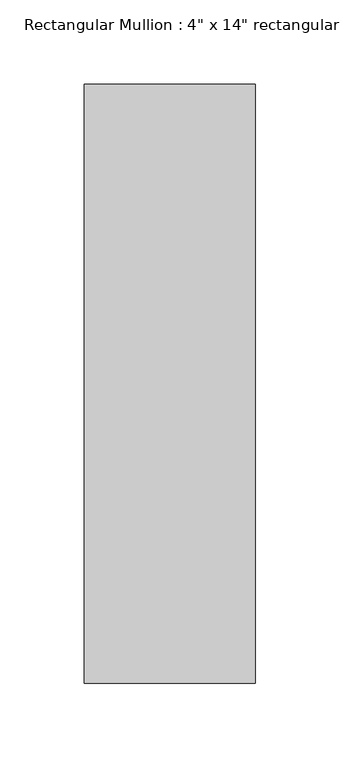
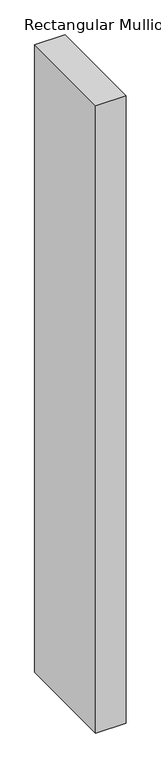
"""IFC4 building model written with IfcOpenShell, lengths in millimetres: member geometry."""

from ifc_helpers import new_model, si_unit, frame, origin, place, context, project, spatial, polyline, outline, extrude, source, transform, mapped, element, save


def member_c889531d(model_context):
    return source(origin(), model_context, "Body", "SweptSolid", [
        extrude(outline(polyline([(50.8, 292.1), (50.8, -63.5), (-50.8, -63.5), (-50.8, 292.1), (50.8, 292.1)])), frame((0.0, 0.0, -2229.8082348), z_axis=(0.0, 0.0, 1.0), x_axis=(1.0, 0.0, 0.0)), (0.0, 0.0, 1.0), 2229.8082348),
    ])


if __name__ == "__main__":
    model = new_model("IFC4")
    model_context = context("Model", 3, world=origin())
    ifc_project = project(units=[si_unit("LENGTHUNIT", "METRE", prefix="MILLI")], contexts=[model_context])
    site = spatial("IfcSite", under=ifc_project)
    building = spatial("IfcBuilding", under=site)
    placement = place(None, origin())
    member_shape = member_c889531d(model_context)
    element("IfcMember", 1, ObjectType="Rectangular Mullion : 4\" x 14\" rectangular", at=placement, inside=building, context=model_context, shape_type="MappedRepresentation", body=[
        mapped(member_shape, transform((0.0, 0.0, 0.0), x_axis=(1.0, 0.0, 0.0), y_axis=(0.0, 1.0, 0.0), z_axis=(0.0, 0.0, 1.0))),
    ])
    save(model, "model.ifc")
